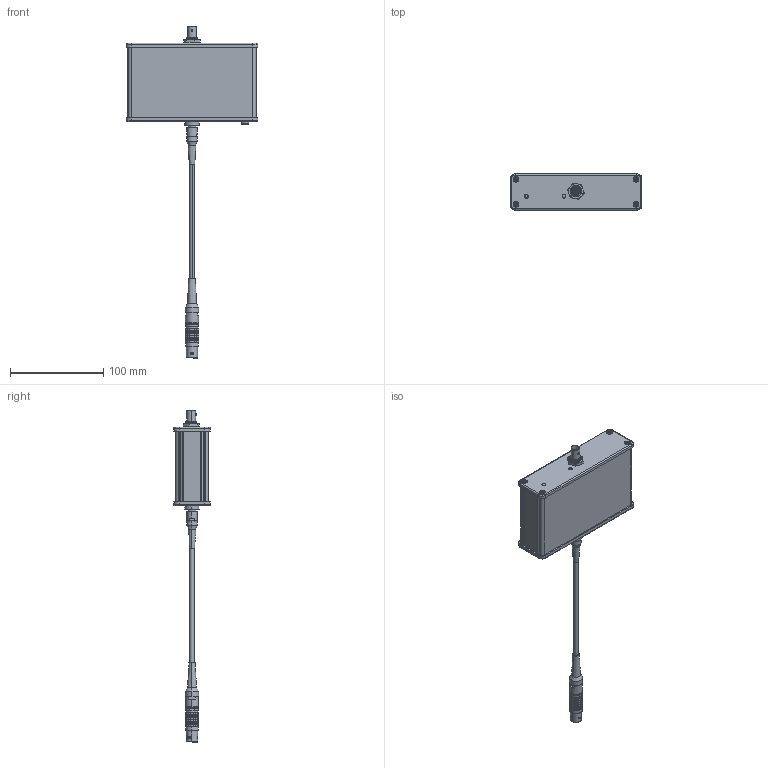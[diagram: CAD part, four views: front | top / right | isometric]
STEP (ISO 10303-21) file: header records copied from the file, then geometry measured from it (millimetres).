
FILE_DESCRIPTION (( 'STEP AP214' ), '1' );
FILE_NAME ('VS-10.STEP', '2023-05-30T18:04:44', ( '' ), ( '' ), 'SwSTEP 2.0', 'SolidWorks 2020', '' );
FILE_SCHEMA (( 'AUTOMOTIVE_DESIGN' ));
Length unit declared in the file: inch
Products named in the file (1): VS-10
Bounding box: 141.88 x 39.01 x 356.97 mm (x, y, z)
Surface area: 114059.7 mm2 (no closed solid volume)
Topology: 0 solids, 38 shells, 2006 faces, 5009 edges, 3102 vertices
Faces by surface type: plane 779, cylinder 488, cone 358, bspline 291, torus 86, sphere 4
Entity records: 91526 total; most frequent: CARTESIAN_POINT 32868, ORIENTED_EDGE 9839, DIRECTION 8497, EDGE_CURVE 4991, AXIS2_PLACEMENT_3D 3123, VERTEX_POINT 3102, VECTOR 2251, LINE 2251
